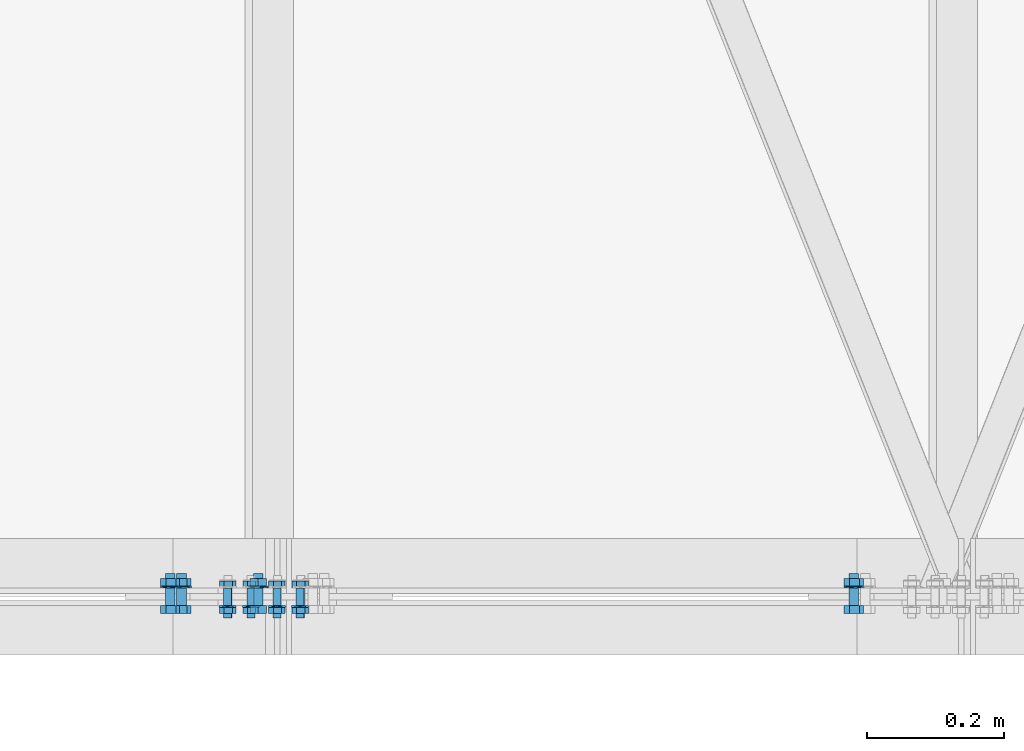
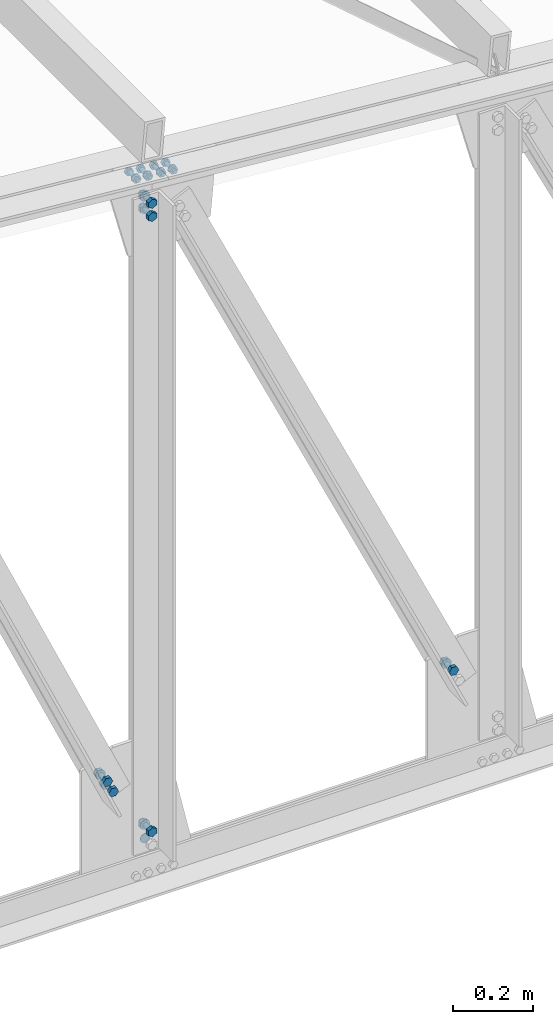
# One storey, part 59 of 251: 40 mechanical fasteners.
"""IFC4 building model written with IfcOpenShell, lengths in metres."""

from ifc_helpers import new_model, si_unit, frame, origin_with_axes, place, context, project, spatial, polyline, outline, extrude, type_object, element, save


model = new_model("IFC4")

# Units and contexts
model_context = context("Model", 3, precision=1e-05, world=origin_with_axes())
ifc_project = project(units=[si_unit("LENGTHUNIT", "METRE"), si_unit("AREAUNIT", "SQUARE_METRE"), si_unit("VOLUMEUNIT", "CUBIC_METRE"), si_unit("MASSUNIT", "GRAM", prefix="KILO"), si_unit("TIMEUNIT", "SECOND"), si_unit("PLANEANGLEUNIT", "RADIAN"), si_unit("SOLIDANGLEUNIT", "STERADIAN"), si_unit("THERMODYNAMICTEMPERATUREUNIT", "DEGREE_CELSIUS")], contexts=[model_context])

# Site, building, storey
placement_1 = place(None, origin_with_axes())
site = spatial("IfcSite", under=ifc_project, at=placement_1, Name="Italia", CompositionType="ELEMENT")
building = spatial("IfcBuilding", under=site, at=placement_1, Name="Deposito", CompositionType="ELEMENT")
storey = spatial("IfcBuildingStorey", under=building, at=placement_1, Name="Storey 0", CompositionType="ELEMENT", Elevation=0.0)

# Mechanical fasteners
mechanical_fastener_type_1 = type_object("IfcMechanicalFastenerType", Name="Reticolare 2", PredefinedType="BOLT")
placement_2 = place(placement_1, origin_with_axes())
mechanical_fastener_1_placement = place(placement_2, origin_with_axes())
element("IfcMechanicalFastener", 1, at=mechanical_fastener_1_placement, inside=storey, type_object=mechanical_fastener_type_1, Name="Reticolare 2", NominalDiameter=0.028, context=model_context, shape_type="SweptSolid", body=[
    extrude(outline(polyline([(0.0, 0.0), (-0.000476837, -0.00362349), (-0.0018754, -0.00699997), (-0.00410032, -0.00989962), (-0.00699997, -0.0121245), (-0.0103765, -0.0135231), (-0.0139999, -0.0139999), (-0.0176234, -0.0135231), (-0.0209999, -0.0121245), (-0.0238996, -0.00989962), (-0.0261245, -0.00699997), (-0.027523, -0.00362349), (-0.0279999, 0.0), (-0.027523, 0.00362349), (-0.0261245, 0.00699997), (-0.0238996, 0.00989962), (-0.0209999, 0.0121245), (-0.0176234, 0.0135231), (-0.0139999, 0.0139999), (-0.0103765, 0.0135231), (-0.00699997, 0.0121245), (-0.00410032, 0.00989962), (-0.0018754, 0.00699997), (-0.000476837, 0.00362349), (0.0, 0.0)])), frame((7.05447, 0.015, 5.08953), z_axis=(0.0, -1.0, 0.0), x_axis=(1.0, 0.0, 0.0)), (0.0, 0.0, 1.0), 0.002),
])
mechanical_fastener_type_2 = type_object("IfcMechanicalFastenerType", Name="Reticolare 2", PredefinedType="BOLT")
mechanical_fastener_2_placement = place(placement_2, origin_with_axes())
element("IfcMechanicalFastener", 2, at=mechanical_fastener_2_placement, inside=storey, type_object=mechanical_fastener_type_2, Name="Reticolare 2", NominalDiameter=0.0139997, context=model_context, shape_type="SweptSolid", body=[
    extrude(outline(polyline([(0.0, 0.0), (0.0, -0.0139999), (-0.0121241, -0.0209999), (-0.0242486, -0.0139999), (-0.0242486, 0.0), (-0.0121241, 0.00700045), (0.0, 0.0)])), frame((7.05259, -0.013, 5.13653), z_axis=(0.0, -1.0, 0.0), x_axis=(1.0, 0.0, 0.0)), (0.0, 0.0, 1.0), 0.0112),
])
mechanical_fastener_type_3 = type_object("IfcMechanicalFastenerType", Name="Reticolare 2", PredefinedType="BOLT")
mechanical_fastener_3_placement = place(placement_2, origin_with_axes())
element("IfcMechanicalFastener", 3, at=mechanical_fastener_3_placement, inside=storey, type_object=mechanical_fastener_type_3, Name="Reticolare 2", NominalDiameter=0.014, context=model_context, shape_type="SweptSolid", body=[
    extrude(outline(polyline([(0.0, 0.0), (-0.000238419, -0.0018115), (-0.000937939, -0.00349998), (-0.0020504, -0.00494957), (-0.00349998, -0.00606203), (-0.00518847, -0.00676155), (-0.00699997, -0.00699997), (-0.00881147, -0.00676155), (-0.0105, -0.00606203), (-0.0119495, -0.00494957), (-0.013062, -0.00349998), (-0.0137615, -0.0018115), (-0.0139999, 0.0), (-0.0137615, 0.0018115), (-0.013062, 0.00349998), (-0.0119495, 0.00494957), (-0.0105, 0.00606203), (-0.00881147, 0.00676155), (-0.00699997, 0.00699997), (-0.00518847, 0.00676155), (-0.00349998, 0.00606203), (-0.0020504, 0.00494957), (-0.000937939, 0.00349998), (-0.000238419, 0.0018115), (0.0, 0.0)])), frame((7.04747, 0.034, 5.12953), z_axis=(0.0, -1.0, 0.0), x_axis=(1.0, 0.0, 0.0)), (0.0, 0.0, 1.0), 0.047),
])
mechanical_fastener_type_4 = type_object("IfcMechanicalFastenerType", Name="Reticolare 2", PredefinedType="BOLT")
mechanical_fastener_4_placement = place(placement_2, origin_with_axes())
element("IfcMechanicalFastener", 4, at=mechanical_fastener_4_placement, inside=storey, type_object=mechanical_fastener_type_4, Name="Reticolare 2", NominalDiameter=0.0139997, context=model_context, shape_type="SweptSolid", body=[
    extrude(outline(polyline([(0.0, 0.0), (0.0, -0.0139999), (-0.0121241, -0.0209999), (-0.0242486, -0.0139999), (-0.0242486, 0.0), (-0.0121241, 0.00700045), (0.0, 0.0)])), frame((7.05259, 0.0262, 5.13653), z_axis=(0.0, -1.0, 0.0), x_axis=(1.0, 0.0, 0.0)), (0.0, 0.0, 1.0), 0.0112),
])
mechanical_fastener_type_5 = type_object("IfcMechanicalFastenerType", Name="Reticolare 2", PredefinedType="BOLT")
mechanical_fastener_5_placement = place(placement_2, origin_with_axes())
element("IfcMechanicalFastener", 5, at=mechanical_fastener_5_placement, inside=storey, type_object=mechanical_fastener_type_5, Name="Reticolare 2", NominalDiameter=0.028, context=model_context, shape_type="SweptSolid", body=[
    extrude(outline(polyline([(0.0, 0.0), (-0.000476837, -0.00362349), (-0.0018754, -0.00699997), (-0.00410032, -0.00989962), (-0.00699997, -0.0121245), (-0.0103765, -0.0135231), (-0.0139999, -0.0139999), (-0.0176234, -0.0135231), (-0.0209999, -0.0121245), (-0.0238996, -0.00989962), (-0.0261245, -0.00699997), (-0.027523, -0.00362349), (-0.0279999, 0.0), (-0.027523, 0.00362349), (-0.0261245, 0.00699997), (-0.0238996, 0.00989962), (-0.0209999, 0.0121245), (-0.0176234, 0.0135231), (-0.0139999, 0.0139999), (-0.0103765, 0.0135231), (-0.00699997, 0.0121245), (-0.00410032, 0.00989962), (-0.0018754, 0.00699997), (-0.000476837, 0.00362349), (0.0, 0.0)])), frame((7.05447, 0.015, 5.12953), z_axis=(0.0, -1.0, 0.0), x_axis=(1.0, 0.0, 0.0)), (0.0, 0.0, 1.0), 0.002),
])
mechanical_fastener_type_6 = type_object("IfcMechanicalFastenerType", Name="Reticolare 2", PredefinedType="BOLT")
mechanical_fastener_6_placement = place(placement_2, origin_with_axes())
element("IfcMechanicalFastener", 6, at=mechanical_fastener_6_placement, inside=storey, type_object=mechanical_fastener_type_6, Name="Reticolare 2", NominalDiameter=0.0139998, context=model_context, shape_type="SweptSolid", body=[
    extrude(outline(polyline([(0.0, 0.0), (-0.00574684, 0.0127659), (0.00243521, 0.0241261), (0.0163646, 0.0227203), (0.0221114, 0.00995398), (0.0139294, -0.00140619), (0.0, 0.0)])), frame((6.92051, -0.013, 5.27885), z_axis=(0.0, -1.0, 0.0), x_axis=(1.0, 0.0, 0.0)), (0.0, 0.0, 1.0), 0.0112),
])
mechanical_fastener_type_7 = type_object("IfcMechanicalFastenerType", Name="Reticolare 2", PredefinedType="BOLT")
mechanical_fastener_7_placement = place(placement_2, origin_with_axes())
element("IfcMechanicalFastener", 7, at=mechanical_fastener_7_placement, inside=storey, type_object=mechanical_fastener_type_7, Name="Reticolare 2", NominalDiameter=0.014, context=model_context, shape_type="SweptSolid", body=[
    extrude(outline(polyline([(0.0, 0.0), (-0.000238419, -0.0018115), (-0.000937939, -0.00349998), (-0.0020504, -0.00494957), (-0.00349998, -0.00606203), (-0.00518847, -0.00676155), (-0.00699997, -0.00699997), (-0.00881147, -0.00676155), (-0.0105, -0.00606203), (-0.0119495, -0.00494957), (-0.013062, -0.00349998), (-0.0137615, -0.0018115), (-0.0139999, 0.0), (-0.0137615, 0.0018115), (-0.013062, 0.00349998), (-0.0119495, 0.00494957), (-0.0105, 0.00606203), (-0.00881147, 0.00676155), (-0.00699997, 0.00699997), (-0.00518847, 0.00676155), (-0.00349998, 0.00606203), (-0.0020504, 0.00494957), (-0.000937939, 0.00349998), (-0.000238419, 0.0018115), (0.0, 0.0)])), frame((6.9357, 0.034, 5.29021), z_axis=(0.0, -1.0, 0.0), x_axis=(1.0, 0.0, 0.0)), (0.0, 0.0, 1.0), 0.047),
])
mechanical_fastener_type_8 = type_object("IfcMechanicalFastenerType", Name="Reticolare 2", PredefinedType="BOLT")
mechanical_fastener_8_placement = place(placement_2, origin_with_axes())
element("IfcMechanicalFastener", 8, at=mechanical_fastener_8_placement, inside=storey, type_object=mechanical_fastener_type_8, Name="Reticolare 2", NominalDiameter=0.0139998, context=model_context, shape_type="SweptSolid", body=[
    extrude(outline(polyline([(0.0, 0.0), (-0.00574684, 0.0127659), (0.00243521, 0.0241261), (0.0163646, 0.0227203), (0.0221114, 0.00995398), (0.0139294, -0.00140619), (0.0, 0.0)])), frame((6.92051, 0.0262, 5.27885), z_axis=(0.0, -1.0, 0.0), x_axis=(1.0, 0.0, 0.0)), (0.0, 0.0, 1.0), 0.0112),
])
mechanical_fastener_type_9 = type_object("IfcMechanicalFastenerType", Name="Reticolare 2", PredefinedType="BOLT")
mechanical_fastener_9_placement = place(placement_2, origin_with_axes())
element("IfcMechanicalFastener", 9, at=mechanical_fastener_9_placement, inside=storey, type_object=mechanical_fastener_type_9, Name="Reticolare 2", NominalDiameter=0.028, context=model_context, shape_type="SweptSolid", body=[
    extrude(outline(polyline([(0.0, 0.0), (-0.000476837, -0.00362349), (-0.0018754, -0.00699997), (-0.00410032, -0.00989962), (-0.00699997, -0.0121245), (-0.0103765, -0.0135231), (-0.0139999, -0.0139999), (-0.0176234, -0.0135231), (-0.0209999, -0.0121245), (-0.0238996, -0.00989962), (-0.0261245, -0.00699997), (-0.027523, -0.00362349), (-0.0279999, 0.0), (-0.027523, 0.00362349), (-0.0261245, 0.00699997), (-0.0238996, 0.00989962), (-0.0209999, 0.0121245), (-0.0176234, 0.0135231), (-0.0139999, 0.0139999), (-0.0103765, 0.0135231), (-0.00699997, 0.0121245), (-0.00410032, 0.00989962), (-0.0018754, 0.00699997), (-0.000476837, 0.00362349), (0.0, 0.0)])), frame((6.9427, 0.015, 5.29021), z_axis=(0.0, -1.0, 0.0), x_axis=(1.0, 0.0, 0.0)), (0.0, 0.0, 1.0), 0.002),
])
mechanical_fastener_type_10 = type_object("IfcMechanicalFastenerType", Name="Reticolare 2", PredefinedType="BOLT")
mechanical_fastener_10_placement = place(placement_2, origin_with_axes())
element("IfcMechanicalFastener", 10, at=mechanical_fastener_10_placement, inside=storey, type_object=mechanical_fastener_type_10, Name="Reticolare 2", NominalDiameter=0.0139998, context=model_context, shape_type="SweptSolid", body=[
    extrude(outline(polyline([(0.0, 0.0), (-0.00574684, 0.0127659), (0.00243521, 0.0241261), (0.0163646, 0.0227199), (0.0221114, 0.00995398), (0.0139294, -0.00140619), (0.0, 0.0)])), frame((6.90409, -0.013, 5.31532), z_axis=(0.0, -1.0, 0.0), x_axis=(1.0, 0.0, 0.0)), (0.0, 0.0, 1.0), 0.0112),
])
mechanical_fastener_type_11 = type_object("IfcMechanicalFastenerType", Name="Reticolare 2", PredefinedType="BOLT")
mechanical_fastener_11_placement = place(placement_2, origin_with_axes())
element("IfcMechanicalFastener", 11, at=mechanical_fastener_11_placement, inside=storey, type_object=mechanical_fastener_type_11, Name="Reticolare 2", NominalDiameter=0.014, context=model_context, shape_type="SweptSolid", body=[
    extrude(outline(polyline([(0.0, 0.0), (-0.000238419, -0.0018115), (-0.000937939, -0.00349998), (-0.0020504, -0.00494957), (-0.00349998, -0.00606203), (-0.00518847, -0.00676155), (-0.00699997, -0.00699997), (-0.00881147, -0.00676155), (-0.0105, -0.00606203), (-0.0119495, -0.00494957), (-0.013062, -0.00349998), (-0.0137615, -0.0018115), (-0.0139999, 0.0), (-0.0137615, 0.0018115), (-0.013062, 0.00349998), (-0.0119495, 0.00494957), (-0.0105, 0.00606203), (-0.00881147, 0.00676155), (-0.00699997, 0.00699997), (-0.00518847, 0.00676155), (-0.00349998, 0.00606203), (-0.0020504, 0.00494957), (-0.000937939, 0.00349998), (-0.000238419, 0.0018115), (0.0, 0.0)])), frame((6.91928, 0.034, 5.32668), z_axis=(0.0, -1.0, 0.0), x_axis=(1.0, 0.0, 0.0)), (0.0, 0.0, 1.0), 0.047),
])
mechanical_fastener_type_12 = type_object("IfcMechanicalFastenerType", Name="Reticolare 2", PredefinedType="BOLT")
mechanical_fastener_12_placement = place(placement_2, origin_with_axes())
element("IfcMechanicalFastener", 12, at=mechanical_fastener_12_placement, inside=storey, type_object=mechanical_fastener_type_12, Name="Reticolare 2", NominalDiameter=0.0139998, context=model_context, shape_type="SweptSolid", body=[
    extrude(outline(polyline([(0.0, 0.0), (-0.00574684, 0.0127659), (0.00243521, 0.0241261), (0.0163646, 0.0227199), (0.0221114, 0.00995398), (0.0139294, -0.00140619), (0.0, 0.0)])), frame((6.90409, 0.0262, 5.31532), z_axis=(0.0, -1.0, 0.0), x_axis=(1.0, 0.0, 0.0)), (0.0, 0.0, 1.0), 0.0112),
])
mechanical_fastener_type_13 = type_object("IfcMechanicalFastenerType", Name="Reticolare 2", PredefinedType="BOLT")
mechanical_fastener_13_placement = place(placement_2, origin_with_axes())
element("IfcMechanicalFastener", 13, at=mechanical_fastener_13_placement, inside=storey, type_object=mechanical_fastener_type_13, Name="Reticolare 2", NominalDiameter=0.028, context=model_context, shape_type="SweptSolid", body=[
    extrude(outline(polyline([(0.0, 0.0), (-0.000476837, -0.00362349), (-0.0018754, -0.00699997), (-0.00410032, -0.00989962), (-0.00699997, -0.0121245), (-0.0103765, -0.0135231), (-0.0139999, -0.0139999), (-0.0176234, -0.0135231), (-0.0209999, -0.0121245), (-0.0238996, -0.00989962), (-0.0261245, -0.00699997), (-0.027523, -0.00362349), (-0.0279999, 0.0), (-0.027523, 0.00362349), (-0.0261245, 0.00699997), (-0.0238996, 0.00989962), (-0.0209999, 0.0121245), (-0.0176234, 0.0135231), (-0.0139999, 0.0139999), (-0.0103765, 0.0135231), (-0.00699997, 0.0121245), (-0.00410032, 0.00989962), (-0.0018754, 0.00699997), (-0.000476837, 0.00362349), (0.0, 0.0)])), frame((6.92628, 0.015, 5.32668), z_axis=(0.0, -1.0, 0.0), x_axis=(1.0, 0.0, 0.0)), (0.0, 0.0, 1.0), 0.002),
])
mechanical_fastener_type_14 = type_object("IfcMechanicalFastenerType", Name="Reticolare 2", PredefinedType="BOLT")
mechanical_fastener_14_placement = place(placement_2, origin_with_axes())
element("IfcMechanicalFastener", 14, at=mechanical_fastener_14_placement, inside=storey, type_object=mechanical_fastener_type_14, Name="Reticolare 2", NominalDiameter=0.0139998, context=model_context, shape_type="SweptSolid", body=[
    extrude(outline(polyline([(0.0, 0.0), (-0.00592422, 0.0126848), (0.00209904, 0.0241575), (0.0160465, 0.0229459), (0.0219707, 0.0102611), (0.0139475, -0.00121212), (0.0, 0.0)])), frame((7.89994, -0.013, 5.30463), z_axis=(0.0, -1.0, 0.0), x_axis=(1.0, 0.0, 0.0)), (0.0, 0.0, 1.0), 0.0112),
])
mechanical_fastener_type_15 = type_object("IfcMechanicalFastenerType", Name="Reticolare 2", PredefinedType="BOLT")
mechanical_fastener_15_placement = place(placement_2, origin_with_axes())
element("IfcMechanicalFastener", 15, at=mechanical_fastener_15_placement, inside=storey, type_object=mechanical_fastener_type_15, Name="Reticolare 2", NominalDiameter=0.014, context=model_context, shape_type="SweptSolid", body=[
    extrude(outline(polyline([(0.0, 0.0), (-0.000238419, -0.0018115), (-0.000937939, -0.00349998), (-0.0020504, -0.00494957), (-0.00349998, -0.00606203), (-0.00518847, -0.00676155), (-0.00699997, -0.00699997), (-0.00881147, -0.00676155), (-0.0105, -0.00606203), (-0.0119495, -0.00494957), (-0.013062, -0.00349998), (-0.0137615, -0.0018115), (-0.0139999, 0.0), (-0.0137615, 0.0018115), (-0.013062, 0.00349998), (-0.0119495, 0.00494957), (-0.0105, 0.00606203), (-0.00881147, 0.00676155), (-0.00699997, 0.00699997), (-0.00518847, 0.00676155), (-0.00349998, 0.00606203), (-0.0020504, 0.00494957), (-0.000937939, 0.00349998), (-0.000238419, 0.0018115), (0.0, 0.0)])), frame((7.91497, 0.034, 5.3161), z_axis=(0.0, -1.0, 0.0), x_axis=(1.0, 0.0, 0.0)), (0.0, 0.0, 1.0), 0.047),
])
mechanical_fastener_type_16 = type_object("IfcMechanicalFastenerType", Name="Reticolare 2", PredefinedType="BOLT")
mechanical_fastener_16_placement = place(placement_2, origin_with_axes())
element("IfcMechanicalFastener", 16, at=mechanical_fastener_16_placement, inside=storey, type_object=mechanical_fastener_type_16, Name="Reticolare 2", NominalDiameter=0.0139998, context=model_context, shape_type="SweptSolid", body=[
    extrude(outline(polyline([(0.0, 0.0), (-0.00592422, 0.0126848), (0.00209904, 0.0241575), (0.0160465, 0.0229459), (0.0219707, 0.0102611), (0.0139475, -0.00121212), (0.0, 0.0)])), frame((7.89994, 0.0262, 5.30463), z_axis=(0.0, -1.0, 0.0), x_axis=(1.0, 0.0, 0.0)), (0.0, 0.0, 1.0), 0.0112),
])
mechanical_fastener_type_17 = type_object("IfcMechanicalFastenerType", Name="Reticolare 2", PredefinedType="BOLT")
mechanical_fastener_17_placement = place(placement_2, origin_with_axes())
element("IfcMechanicalFastener", 17, at=mechanical_fastener_17_placement, inside=storey, type_object=mechanical_fastener_type_17, Name="Reticolare 2", NominalDiameter=0.028, context=model_context, shape_type="SweptSolid", body=[
    extrude(outline(polyline([(0.0, 0.0), (-0.000476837, -0.00362349), (-0.0018754, -0.00699997), (-0.00410032, -0.00989962), (-0.00699997, -0.0121245), (-0.0103765, -0.0135231), (-0.0139999, -0.0139999), (-0.0176234, -0.0135231), (-0.0209999, -0.0121245), (-0.0238996, -0.00989962), (-0.0261245, -0.00699997), (-0.027523, -0.00362349), (-0.0279999, 0.0), (-0.027523, 0.00362349), (-0.0261245, 0.00699997), (-0.0238996, 0.00989962), (-0.0209999, 0.0121245), (-0.0176234, 0.0135231), (-0.0139999, 0.0139999), (-0.0103765, 0.0135231), (-0.00699997, 0.0121245), (-0.00410032, 0.00989962), (-0.0018754, 0.00699997), (-0.000476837, 0.00362349), (0.0, 0.0)])), frame((7.92197, 0.015, 5.3161), z_axis=(0.0, -1.0, 0.0), x_axis=(1.0, 0.0, 0.0)), (0.0, 0.0, 1.0), 0.002),
])
mechanical_fastener_type_18 = type_object("IfcMechanicalFastenerType", Name="Reticolare 2", PredefinedType="BOLT")
mechanical_fastener_18_placement = place(placement_2, origin_with_axes())
element("IfcMechanicalFastener", 18, at=mechanical_fastener_18_placement, inside=storey, type_object=mechanical_fastener_type_18, Name="Reticolare 2", NominalDiameter=0.0119997, context=model_context, shape_type="SweptSolid", body=[
    extrude(outline(polyline([(0.0, 0.0), (0.0119548, 0.00104237), (0.0188346, -0.00878954), (0.0137601, -0.0196638), (0.00180578, -0.0207062), (-0.0050745, -0.0108743), (0.0, 0.0)])), frame((7.03681, 0.013, 7.13753), z_axis=(0.0, 1.0, 0.0), x_axis=(-1.0, 0.0, 0.0)), (0.0, 0.0, 1.0), 0.0096),
])
mechanical_fastener_type_19 = type_object("IfcMechanicalFastenerType", Name="Reticolare 2", PredefinedType="BOLT")
mechanical_fastener_19_placement = place(placement_2, origin_with_axes())
element("IfcMechanicalFastener", 19, at=mechanical_fastener_19_placement, inside=storey, type_object=mechanical_fastener_type_19, Name="Reticolare 2", NominalDiameter=0.012, context=model_context, shape_type="SweptSolid", body=[
    extrude(outline(polyline([(0.0, 0.0), (-0.000204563, -0.00155306), (-0.000803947, -0.00299978), (-0.00175762, -0.00424242), (-0.00300026, -0.00519609), (-0.00444698, -0.00579548), (-0.00600004, -0.00600004), (-0.0075531, -0.00579548), (-0.00899982, -0.00519609), (-0.0102425, -0.00424242), (-0.0111961, -0.00299978), (-0.0117955, -0.00155306), (-0.0120001, 0.0), (-0.0117955, 0.00155306), (-0.0111961, 0.00299978), (-0.0102425, 0.00424242), (-0.00899982, 0.00519609), (-0.0075531, 0.00579548), (-0.00600004, 0.00600004), (-0.00444698, 0.00579548), (-0.00300026, 0.00519609), (-0.00175762, 0.00424242), (-0.000803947, 0.00299978), (-0.000204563, 0.00155306), (0.0, 0.0)])), frame((7.02393, -0.031, 7.1277), z_axis=(0.0, 1.0, 0.0), x_axis=(-1.0, 0.0, 0.0)), (0.0, 0.0, 1.0), 0.044),
])
mechanical_fastener_type_20 = type_object("IfcMechanicalFastenerType", Name="Reticolare 2", PredefinedType="BOLT")
mechanical_fastener_20_placement = place(placement_2, origin_with_axes())
element("IfcMechanicalFastener", 20, at=mechanical_fastener_20_placement, inside=storey, type_object=mechanical_fastener_type_20, Name="Reticolare 2", NominalDiameter=0.0119997, context=model_context, shape_type="SweptSolid", body=[
    extrude(outline(polyline([(0.0, 0.0), (0.0119548, 0.00104237), (0.0188346, -0.00878954), (0.0137601, -0.0196638), (0.00180578, -0.0207062), (-0.0050745, -0.0108743), (0.0, 0.0)])), frame((7.03681, -0.0246, 7.13753), z_axis=(0.0, 1.0, 0.0), x_axis=(-1.0, 0.0, 0.0)), (0.0, 0.0, 1.0), 0.0096),
])
mechanical_fastener_type_21 = type_object("IfcMechanicalFastenerType", Name="Reticolare 2", PredefinedType="BOLT")
mechanical_fastener_21_placement = place(placement_2, origin_with_axes())
element("IfcMechanicalFastener", 21, at=mechanical_fastener_21_placement, inside=storey, type_object=mechanical_fastener_type_21, Name="Reticolare 2", NominalDiameter=0.024, context=model_context, shape_type="SweptSolid", body=[
    extrude(outline(polyline([(0.0, 0.0), (-0.000409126, -0.00310564), (-0.00160789, -0.00600004), (-0.00351477, -0.00848532), (-0.00600004, -0.0103922), (-0.00889444, -0.011591), (-0.0120001, -0.0120001), (-0.0151057, -0.011591), (-0.0180001, -0.0103922), (-0.0204854, -0.00848532), (-0.0223923, -0.00600004), (-0.023591, -0.00310564), (-0.0240002, 0.0), (-0.023591, 0.00310564), (-0.0223923, 0.00600004), (-0.0204854, 0.00848532), (-0.0180001, 0.0103922), (-0.0151057, 0.011591), (-0.0120001, 0.0120001), (-0.00889444, 0.011591), (-0.00600004, 0.0103922), (-0.00351477, 0.00848532), (-0.00160789, 0.00600004), (-0.000409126, 0.00310564), (0.0, 0.0)])), frame((7.01793, -0.015, 7.1277), z_axis=(0.0, 1.0, 0.0), x_axis=(-1.0, 0.0, 0.0)), (0.0, 0.0, 1.0), 0.002),
])
mechanical_fastener_type_22 = type_object("IfcMechanicalFastenerType", Name="Reticolare 2", PredefinedType="BOLT")
mechanical_fastener_22_placement = place(placement_2, origin_with_axes())
element("IfcMechanicalFastener", 22, at=mechanical_fastener_22_placement, inside=storey, type_object=mechanical_fastener_type_22, Name="Reticolare 2", NominalDiameter=0.012, context=model_context, shape_type="SweptSolid", body=[
    extrude(outline(polyline([(0.0, 0.0), (0.0119548, 0.00104237), (0.0188351, -0.00878954), (0.0137606, -0.0196638), (0.00180578, -0.0207062), (-0.0050745, -0.0108743), (0.0, 0.0)])), frame((7.00294, 0.013, 7.14049), z_axis=(0.0, 1.0, 0.0), x_axis=(-1.0, 0.0, 0.0)), (0.0, 0.0, 1.0), 0.0096),
])
mechanical_fastener_type_23 = type_object("IfcMechanicalFastenerType", Name="Reticolare 2", PredefinedType="BOLT")
mechanical_fastener_23_placement = place(placement_2, origin_with_axes())
element("IfcMechanicalFastener", 23, at=mechanical_fastener_23_placement, inside=storey, type_object=mechanical_fastener_type_23, Name="Reticolare 2", NominalDiameter=0.012, context=model_context, shape_type="SweptSolid", body=[
    extrude(outline(polyline([(0.0, 0.0), (-0.000204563, -0.00155306), (-0.000803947, -0.00299978), (-0.00175762, -0.00424242), (-0.00300026, -0.00519609), (-0.00444698, -0.00579548), (-0.00600004, -0.00600004), (-0.0075531, -0.00579548), (-0.00899982, -0.00519609), (-0.0102425, -0.00424242), (-0.0111961, -0.00299978), (-0.0117955, -0.00155306), (-0.0120001, 0.0), (-0.0117955, 0.00155306), (-0.0111961, 0.00299978), (-0.0102425, 0.00424242), (-0.00899982, 0.00519609), (-0.0075531, 0.00579548), (-0.00600004, 0.00600004), (-0.00444698, 0.00579548), (-0.00300026, 0.00519609), (-0.00175762, 0.00424242), (-0.000803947, 0.00299978), (-0.000204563, 0.00155306), (0.0, 0.0)])), frame((6.99006, -0.031, 7.13066), z_axis=(0.0, 1.0, 0.0), x_axis=(-1.0, 0.0, 0.0)), (0.0, 0.0, 1.0), 0.044),
])
mechanical_fastener_type_24 = type_object("IfcMechanicalFastenerType", Name="Reticolare 2", PredefinedType="BOLT")
mechanical_fastener_24_placement = place(placement_2, origin_with_axes())
element("IfcMechanicalFastener", 24, at=mechanical_fastener_24_placement, inside=storey, type_object=mechanical_fastener_type_24, Name="Reticolare 2", NominalDiameter=0.012, context=model_context, shape_type="SweptSolid", body=[
    extrude(outline(polyline([(0.0, 0.0), (0.0119548, 0.00104237), (0.0188351, -0.00878954), (0.0137606, -0.0196638), (0.00180578, -0.0207062), (-0.0050745, -0.0108743), (0.0, 0.0)])), frame((7.00294, -0.0246, 7.14049), z_axis=(0.0, 1.0, 0.0), x_axis=(-1.0, 0.0, 0.0)), (0.0, 0.0, 1.0), 0.0096),
])
mechanical_fastener_type_25 = type_object("IfcMechanicalFastenerType", Name="Reticolare 2", PredefinedType="BOLT")
mechanical_fastener_25_placement = place(placement_2, origin_with_axes())
element("IfcMechanicalFastener", 25, at=mechanical_fastener_25_placement, inside=storey, type_object=mechanical_fastener_type_25, Name="Reticolare 2", NominalDiameter=0.024, context=model_context, shape_type="SweptSolid", body=[
    extrude(outline(polyline([(0.0, 0.0), (-0.000409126, -0.00310564), (-0.00160789, -0.00600004), (-0.00351477, -0.00848532), (-0.00600004, -0.0103922), (-0.00889444, -0.011591), (-0.0120001, -0.0120001), (-0.0151057, -0.011591), (-0.0180001, -0.0103922), (-0.0204854, -0.00848532), (-0.0223923, -0.00600004), (-0.023591, -0.00310564), (-0.0240002, 0.0), (-0.023591, 0.00310564), (-0.0223923, 0.00600004), (-0.0204854, 0.00848532), (-0.0180001, 0.0103922), (-0.0151057, 0.011591), (-0.0120001, 0.0120001), (-0.00889444, 0.011591), (-0.00600004, 0.0103922), (-0.00351477, 0.00848532), (-0.00160789, 0.00600004), (-0.000409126, 0.00310564), (0.0, 0.0)])), frame((6.98406, -0.015, 7.13066), z_axis=(0.0, 1.0, 0.0), x_axis=(-1.0, 0.0, 0.0)), (0.0, 0.0, 1.0), 0.002),
])
mechanical_fastener_type_26 = type_object("IfcMechanicalFastenerType", Name="Reticolare 2", PredefinedType="BOLT")
mechanical_fastener_26_placement = place(placement_2, origin_with_axes())
element("IfcMechanicalFastener", 26, at=mechanical_fastener_26_placement, inside=storey, type_object=mechanical_fastener_type_26, Name="Reticolare 2", NominalDiameter=0.0119999, context=model_context, shape_type="SweptSolid", body=[
    extrude(outline(polyline([(0.0, 0.0), (0.0119543, 0.0010457), (0.018837, -0.00878429), (0.0137658, -0.01966), (0.0018115, -0.0207057), (-0.00507164, -0.0108757), (0.0, 0.0)])), frame((7.07467, 0.013, 7.13423), z_axis=(0.0, 1.0, 0.0), x_axis=(-1.0, 0.0, 0.0)), (0.0, 0.0, 1.0), 0.0096),
])
mechanical_fastener_type_27 = type_object("IfcMechanicalFastenerType", Name="Reticolare 2", PredefinedType="BOLT")
mechanical_fastener_27_placement = place(placement_2, origin_with_axes())
element("IfcMechanicalFastener", 27, at=mechanical_fastener_27_placement, inside=storey, type_object=mechanical_fastener_type_27, Name="Reticolare 2", NominalDiameter=0.012, context=model_context, shape_type="SweptSolid", body=[
    extrude(outline(polyline([(0.0, 0.0), (-0.000204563, -0.00155306), (-0.000803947, -0.00299978), (-0.00175762, -0.00424242), (-0.00300026, -0.00519609), (-0.00444698, -0.00579548), (-0.00600004, -0.00600004), (-0.0075531, -0.00579548), (-0.00899982, -0.00519609), (-0.0102425, -0.00424242), (-0.0111961, -0.00299978), (-0.0117955, -0.00155306), (-0.0120001, 0.0), (-0.0117955, 0.00155306), (-0.0111961, 0.00299978), (-0.0102425, 0.00424242), (-0.00899982, 0.00519609), (-0.0075531, 0.00579548), (-0.00600004, 0.00600004), (-0.00444698, 0.00579548), (-0.00300026, 0.00519609), (-0.00175762, 0.00424242), (-0.000803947, 0.00299978), (-0.000204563, 0.00155306), (0.0, 0.0)])), frame((7.06179, -0.031, 7.1244), z_axis=(0.0, 1.0, 0.0), x_axis=(-1.0, 0.0, 0.0)), (0.0, 0.0, 1.0), 0.044),
])
mechanical_fastener_type_28 = type_object("IfcMechanicalFastenerType", Name="Reticolare 2", PredefinedType="BOLT")
mechanical_fastener_28_placement = place(placement_2, origin_with_axes())
element("IfcMechanicalFastener", 28, at=mechanical_fastener_28_placement, inside=storey, type_object=mechanical_fastener_type_28, Name="Reticolare 2", NominalDiameter=0.0119999, context=model_context, shape_type="SweptSolid", body=[
    extrude(outline(polyline([(0.0, 0.0), (0.0119543, 0.0010457), (0.018837, -0.00878429), (0.0137658, -0.01966), (0.0018115, -0.0207057), (-0.00507164, -0.0108757), (0.0, 0.0)])), frame((7.07467, -0.0246, 7.13423), z_axis=(0.0, 1.0, 0.0), x_axis=(-1.0, 0.0, 0.0)), (0.0, 0.0, 1.0), 0.0096),
])
mechanical_fastener_type_29 = type_object("IfcMechanicalFastenerType", Name="Reticolare 2", PredefinedType="BOLT")
mechanical_fastener_29_placement = place(placement_2, origin_with_axes())
element("IfcMechanicalFastener", 29, at=mechanical_fastener_29_placement, inside=storey, type_object=mechanical_fastener_type_29, Name="Reticolare 2", NominalDiameter=0.024, context=model_context, shape_type="SweptSolid", body=[
    extrude(outline(polyline([(0.0, 0.0), (-0.000409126, -0.00310564), (-0.00160789, -0.00600004), (-0.00351477, -0.00848532), (-0.00600004, -0.0103922), (-0.00889444, -0.011591), (-0.0120001, -0.0120001), (-0.0151057, -0.011591), (-0.0180001, -0.0103922), (-0.0204854, -0.00848532), (-0.0223923, -0.00600004), (-0.023591, -0.00310564), (-0.0240002, 0.0), (-0.023591, 0.00310564), (-0.0223923, 0.00600004), (-0.0204854, 0.00848532), (-0.0180001, 0.0103922), (-0.0151057, 0.011591), (-0.0120001, 0.0120001), (-0.00889444, 0.011591), (-0.00600004, 0.0103922), (-0.00351477, 0.00848532), (-0.00160789, 0.00600004), (-0.000409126, 0.00310564), (0.0, 0.0)])), frame((7.05579, -0.015, 7.1244), z_axis=(0.0, 1.0, 0.0), x_axis=(-1.0, 0.0, 0.0)), (0.0, 0.0, 1.0), 0.002),
])
mechanical_fastener_type_30 = type_object("IfcMechanicalFastenerType", Name="Reticolare 2", PredefinedType="BOLT")
mechanical_fastener_30_placement = place(placement_2, origin_with_axes())
element("IfcMechanicalFastener", 30, at=mechanical_fastener_30_placement, inside=storey, type_object=mechanical_fastener_type_30, Name="Reticolare 2", NominalDiameter=0.0119996, context=model_context, shape_type="SweptSolid", body=[
    extrude(outline(polyline([(0.0, 0.0), (0.0119543, 0.0010457), (0.018837, -0.00878382), (0.0137658, -0.0196595), (0.0018115, -0.0207052), (-0.00507164, -0.0108757), (0.0, 0.0)])), frame((7.10854, 0.013, 7.13126), z_axis=(0.0, 1.0, 0.0), x_axis=(-1.0, 0.0, 0.0)), (0.0, 0.0, 1.0), 0.0096),
])
mechanical_fastener_type_31 = type_object("IfcMechanicalFastenerType", Name="Reticolare 2", PredefinedType="BOLT")
mechanical_fastener_31_placement = place(placement_2, origin_with_axes())
element("IfcMechanicalFastener", 31, at=mechanical_fastener_31_placement, inside=storey, type_object=mechanical_fastener_type_31, Name="Reticolare 2", NominalDiameter=0.012, context=model_context, shape_type="SweptSolid", body=[
    extrude(outline(polyline([(0.0, 0.0), (-0.000204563, -0.00155306), (-0.000803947, -0.00299978), (-0.00175762, -0.00424242), (-0.00300026, -0.00519609), (-0.00444698, -0.00579548), (-0.00600004, -0.00600004), (-0.0075531, -0.00579548), (-0.00899982, -0.00519609), (-0.0102425, -0.00424242), (-0.0111961, -0.00299978), (-0.0117955, -0.00155306), (-0.0120001, 0.0), (-0.0117955, 0.00155306), (-0.0111961, 0.00299978), (-0.0102425, 0.00424242), (-0.00899982, 0.00519609), (-0.0075531, 0.00579548), (-0.00600004, 0.00600004), (-0.00444698, 0.00579548), (-0.00300026, 0.00519609), (-0.00175762, 0.00424242), (-0.000803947, 0.00299978), (-0.000204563, 0.00155306), (0.0, 0.0)])), frame((7.09566, -0.031, 7.12143), z_axis=(0.0, 1.0, 0.0), x_axis=(-1.0, 0.0, 0.0)), (0.0, 0.0, 1.0), 0.044),
])
mechanical_fastener_type_32 = type_object("IfcMechanicalFastenerType", Name="Reticolare 2", PredefinedType="BOLT")
mechanical_fastener_32_placement = place(placement_2, origin_with_axes())
element("IfcMechanicalFastener", 32, at=mechanical_fastener_32_placement, inside=storey, type_object=mechanical_fastener_type_32, Name="Reticolare 2", NominalDiameter=0.0119996, context=model_context, shape_type="SweptSolid", body=[
    extrude(outline(polyline([(0.0, 0.0), (0.0119543, 0.0010457), (0.018837, -0.00878382), (0.0137658, -0.0196595), (0.0018115, -0.0207052), (-0.00507164, -0.0108757), (0.0, 0.0)])), frame((7.10854, -0.0246, 7.13126), z_axis=(0.0, 1.0, 0.0), x_axis=(-1.0, 0.0, 0.0)), (0.0, 0.0, 1.0), 0.0096),
])
mechanical_fastener_type_33 = type_object("IfcMechanicalFastenerType", Name="Reticolare 2", PredefinedType="BOLT")
mechanical_fastener_33_placement = place(placement_2, origin_with_axes())
element("IfcMechanicalFastener", 33, at=mechanical_fastener_33_placement, inside=storey, type_object=mechanical_fastener_type_33, Name="Reticolare 2", NominalDiameter=0.024, context=model_context, shape_type="SweptSolid", body=[
    extrude(outline(polyline([(0.0, 0.0), (-0.000409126, -0.00310564), (-0.00160789, -0.00600004), (-0.00351477, -0.00848532), (-0.00600004, -0.0103922), (-0.00889444, -0.011591), (-0.0120001, -0.0120001), (-0.0151057, -0.011591), (-0.0180001, -0.0103922), (-0.0204854, -0.00848532), (-0.0223923, -0.00600004), (-0.023591, -0.00310564), (-0.0240002, 0.0), (-0.023591, 0.00310564), (-0.0223923, 0.00600004), (-0.0204854, 0.00848532), (-0.0180001, 0.0103922), (-0.0151057, 0.011591), (-0.0120001, 0.0120001), (-0.00889444, 0.011591), (-0.00600004, 0.0103922), (-0.00351477, 0.00848532), (-0.00160789, 0.00600004), (-0.000409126, 0.00310564), (0.0, 0.0)])), frame((7.08966, -0.015, 7.12143), z_axis=(0.0, 1.0, 0.0), x_axis=(-1.0, 0.0, 0.0)), (0.0, 0.0, 1.0), 0.002),
])
mechanical_fastener_type_34 = type_object("IfcMechanicalFastenerType", Name="Reticolare 2", PredefinedType="BOLT")
mechanical_fastener_34_placement = place(placement_2, origin_with_axes())
element("IfcMechanicalFastener", 34, at=mechanical_fastener_34_placement, inside=storey, type_object=mechanical_fastener_type_34, Name="Reticolare 2", NominalDiameter=0.0139997, context=model_context, shape_type="SweptSolid", body=[
    extrude(outline(polyline([(0.0, 0.0), (0.0, -0.0139999), (-0.0121241, -0.0209999), (-0.0242486, -0.0139999), (-0.0242486, 0.0), (-0.0121241, 0.00699997), (0.0, 0.0)])), frame((7.05259, -0.013, 7.04826), z_axis=(0.0, -1.0, 0.0), x_axis=(1.0, 0.0, 0.0)), (0.0, 0.0, 1.0), 0.0112),
])
mechanical_fastener_type_35 = type_object("IfcMechanicalFastenerType", Name="Reticolare 2", PredefinedType="BOLT")
mechanical_fastener_35_placement = place(placement_2, origin_with_axes())
element("IfcMechanicalFastener", 35, at=mechanical_fastener_35_placement, inside=storey, type_object=mechanical_fastener_type_35, Name="Reticolare 2", NominalDiameter=0.014, context=model_context, shape_type="SweptSolid", body=[
    extrude(outline(polyline([(0.0, 0.0), (-0.000238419, -0.0018115), (-0.000937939, -0.00349998), (-0.0020504, -0.00494957), (-0.00349998, -0.00606203), (-0.00518847, -0.00676155), (-0.00699997, -0.00699997), (-0.00881147, -0.00676155), (-0.0105, -0.00606203), (-0.0119495, -0.00494957), (-0.013062, -0.00349998), (-0.0137615, -0.0018115), (-0.0139999, 0.0), (-0.0137615, 0.0018115), (-0.013062, 0.00349998), (-0.0119495, 0.00494957), (-0.0105, 0.00606203), (-0.00881147, 0.00676155), (-0.00699997, 0.00699997), (-0.00518847, 0.00676155), (-0.00349998, 0.00606203), (-0.0020504, 0.00494957), (-0.000937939, 0.00349998), (-0.000238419, 0.0018115), (0.0, 0.0)])), frame((7.04747, 0.034, 7.04126), z_axis=(0.0, -1.0, 0.0), x_axis=(1.0, 0.0, 0.0)), (0.0, 0.0, 1.0), 0.047),
])
mechanical_fastener_type_36 = type_object("IfcMechanicalFastenerType", Name="Reticolare 2", PredefinedType="BOLT")
mechanical_fastener_36_placement = place(placement_2, origin_with_axes())
element("IfcMechanicalFastener", 36, at=mechanical_fastener_36_placement, inside=storey, type_object=mechanical_fastener_type_36, Name="Reticolare 2", NominalDiameter=0.0139997, context=model_context, shape_type="SweptSolid", body=[
    extrude(outline(polyline([(0.0, 0.0), (0.0, -0.0139999), (-0.0121241, -0.0209999), (-0.0242486, -0.0139999), (-0.0242486, 0.0), (-0.0121241, 0.00699997), (0.0, 0.0)])), frame((7.05259, 0.0262, 7.04826), z_axis=(0.0, -1.0, 0.0), x_axis=(1.0, 0.0, 0.0)), (0.0, 0.0, 1.0), 0.0112),
])
mechanical_fastener_type_37 = type_object("IfcMechanicalFastenerType", Name="Reticolare 2", PredefinedType="BOLT")
mechanical_fastener_37_placement = place(placement_2, origin_with_axes())
element("IfcMechanicalFastener", 37, at=mechanical_fastener_37_placement, inside=storey, type_object=mechanical_fastener_type_37, Name="Reticolare 2", NominalDiameter=0.028, context=model_context, shape_type="SweptSolid", body=[
    extrude(outline(polyline([(0.0, 0.0), (-0.000476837, -0.00362349), (-0.0018754, -0.00699997), (-0.00410032, -0.00989962), (-0.00699997, -0.0121245), (-0.0103765, -0.0135231), (-0.0139999, -0.0139999), (-0.0176234, -0.0135231), (-0.0209999, -0.0121245), (-0.0238996, -0.00989962), (-0.0261245, -0.00699997), (-0.027523, -0.00362349), (-0.0279999, 0.0), (-0.027523, 0.00362349), (-0.0261245, 0.00699997), (-0.0238996, 0.00989962), (-0.0209999, 0.0121245), (-0.0176234, 0.0135231), (-0.0139999, 0.0139999), (-0.0103765, 0.0135231), (-0.00699997, 0.0121245), (-0.00410032, 0.00989962), (-0.0018754, 0.00699997), (-0.000476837, 0.00362349), (0.0, 0.0)])), frame((7.05447, 0.015, 7.04126), z_axis=(0.0, -1.0, 0.0), x_axis=(1.0, 0.0, 0.0)), (0.0, 0.0, 1.0), 0.002),
])
mechanical_fastener_type_38 = type_object("IfcMechanicalFastenerType", Name="Reticolare 2", PredefinedType="BOLT")
mechanical_fastener_38_placement = place(placement_2, origin_with_axes())
element("IfcMechanicalFastener", 38, at=mechanical_fastener_38_placement, inside=storey, type_object=mechanical_fastener_type_38, Name="Reticolare 2", NominalDiameter=0.0139997, context=model_context, shape_type="SweptSolid", body=[
    extrude(outline(polyline([(0.0, 0.0), (0.0, -0.0139999), (-0.0121241, -0.0210004), (-0.0242486, -0.0139999), (-0.0242486, 0.0), (-0.0121241, 0.00699997), (0.0, 0.0)])), frame((7.05259, -0.013, 7.00826), z_axis=(0.0, -1.0, 0.0), x_axis=(1.0, 0.0, 0.0)), (0.0, 0.0, 1.0), 0.0112),
])
mechanical_fastener_type_39 = type_object("IfcMechanicalFastenerType", Name="Reticolare 2", PredefinedType="BOLT")
mechanical_fastener_39_placement = place(placement_2, origin_with_axes())
element("IfcMechanicalFastener", 39, at=mechanical_fastener_39_placement, inside=storey, type_object=mechanical_fastener_type_39, Name="Reticolare 2", NominalDiameter=0.014, context=model_context, shape_type="SweptSolid", body=[
    extrude(outline(polyline([(0.0, 0.0), (-0.000238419, -0.0018115), (-0.000937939, -0.00349998), (-0.0020504, -0.00494957), (-0.00349998, -0.00606203), (-0.00518847, -0.00676155), (-0.00699997, -0.00699997), (-0.00881147, -0.00676155), (-0.0105, -0.00606203), (-0.0119495, -0.00494957), (-0.013062, -0.00349998), (-0.0137615, -0.0018115), (-0.0139999, 0.0), (-0.0137615, 0.0018115), (-0.013062, 0.00349998), (-0.0119495, 0.00494957), (-0.0105, 0.00606203), (-0.00881147, 0.00676155), (-0.00699997, 0.00699997), (-0.00518847, 0.00676155), (-0.00349998, 0.00606203), (-0.0020504, 0.00494957), (-0.000937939, 0.00349998), (-0.000238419, 0.0018115), (0.0, 0.0)])), frame((7.04747, 0.034, 7.00126), z_axis=(0.0, -1.0, 0.0), x_axis=(1.0, 0.0, 0.0)), (0.0, 0.0, 1.0), 0.047),
])
mechanical_fastener_type_40 = type_object("IfcMechanicalFastenerType", Name="Reticolare 2", PredefinedType="BOLT")
mechanical_fastener_40_placement = place(placement_2, origin_with_axes())
element("IfcMechanicalFastener", 40, at=mechanical_fastener_40_placement, inside=storey, type_object=mechanical_fastener_type_40, Name="Reticolare 2", NominalDiameter=0.0139997, context=model_context, shape_type="SweptSolid", body=[
    extrude(outline(polyline([(0.0, 0.0), (0.0, -0.0139999), (-0.0121241, -0.0210004), (-0.0242486, -0.0139999), (-0.0242486, 0.0), (-0.0121241, 0.00699997), (0.0, 0.0)])), frame((7.05259, 0.0262, 7.00826), z_axis=(0.0, -1.0, 0.0), x_axis=(1.0, 0.0, 0.0)), (0.0, 0.0, 1.0), 0.0112),
])

save(model, "model.ifc")
